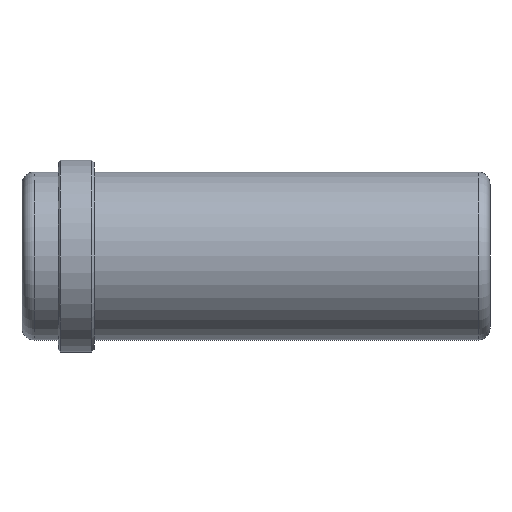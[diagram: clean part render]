
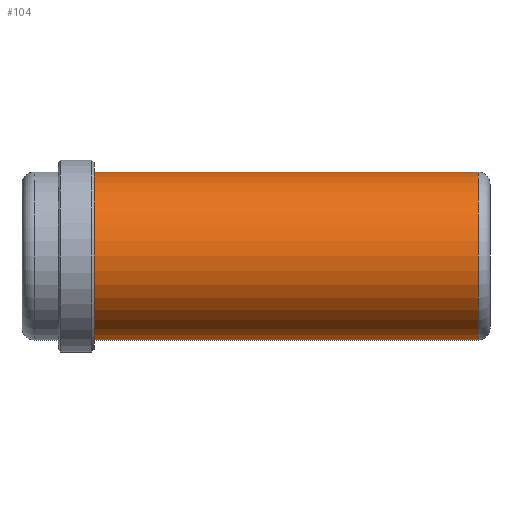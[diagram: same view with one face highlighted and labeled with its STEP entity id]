
A CAD part, front view. The second image highlights one B-rep face of the part: STEP entity #104.
In plain terms, the highlighted cylindrical face has radius 7 mm (diameter 14 mm), a partial arc.
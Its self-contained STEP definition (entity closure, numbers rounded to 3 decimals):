
#36 = EDGE_CURVE ( 'NONE', #86, #209, #507, .T. ) ;
#43 = VERTEX_POINT ( 'NONE', #310 ) ;
#86 = VERTEX_POINT ( 'NONE', #141 ) ;
#104 = ADVANCED_FACE ( 'NONE', ( #444 ), #430, .T. ) ;
#121 = EDGE_LOOP ( 'NONE', ( #576, #254, #553, #208 ) ) ;
#122 = DIRECTION ( 'NONE',  ( -1., 0., 0. ) ) ;
#126 = CARTESIAN_POINT ( 'NONE',  ( 6., 0., 0. ) ) ;
#128 = DIRECTION ( 'NONE',  ( -1., 0., 0. ) ) ;
#141 = CARTESIAN_POINT ( 'NONE',  ( 38., 0., 7. ) ) ;
#158 = CARTESIAN_POINT ( 'NONE',  ( 0., 0., 7. ) ) ;
#166 = CARTESIAN_POINT ( 'NONE',  ( 0., 0., -7. ) ) ;
#171 = DIRECTION ( 'NONE',  ( 0., 0., 1. ) ) ;
#185 = CARTESIAN_POINT ( 'NONE',  ( 6., 0., 7. ) ) ;
#208 = ORIENTED_EDGE ( 'NONE', *, *, #523, .F. ) ;
#209 = VERTEX_POINT ( 'NONE', #185 ) ;
#254 = ORIENTED_EDGE ( 'NONE', *, *, #578, .T. ) ;
#304 = DIRECTION ( 'NONE',  ( 0., 0., 1. ) ) ;
#310 = CARTESIAN_POINT ( 'NONE',  ( 38., 0., -7. ) ) ;
#316 = CARTESIAN_POINT ( 'NONE',  ( 0., 0., 0. ) ) ;
#324 = VERTEX_POINT ( 'NONE', #429 ) ;
#390 = AXIS2_PLACEMENT_3D ( 'NONE', #126, #457, #171 ) ;
#396 = DIRECTION ( 'NONE',  ( -1., 0., 0. ) ) ;
#406 = CIRCLE ( 'NONE', #390, 7. ) ;
#408 = CARTESIAN_POINT ( 'NONE',  ( 38., 0., 0. ) ) ;
#412 = AXIS2_PLACEMENT_3D ( 'NONE', #316, #448, #304 ) ;
#429 = CARTESIAN_POINT ( 'NONE',  ( 6., 0., -7. ) ) ;
#430 = CYLINDRICAL_SURFACE ( 'NONE', #412, 7. ) ;
#444 = FACE_OUTER_BOUND ( 'NONE', #121, .T. ) ;
#448 = DIRECTION ( 'NONE',  ( -1., 0., 0. ) ) ;
#457 = DIRECTION ( 'NONE',  ( -1., 0., 0. ) ) ;
#461 = DIRECTION ( 'NONE',  ( 0., 0., 1. ) ) ;
#476 = VECTOR ( 'NONE', #396, 1000. ) ;
#499 = EDGE_CURVE ( 'NONE', #43, #324, #555, .T. ) ;
#507 = LINE ( 'NONE', #158, #476 ) ;
#514 = AXIS2_PLACEMENT_3D ( 'NONE', #408, #128, #461 ) ;
#523 = EDGE_CURVE ( 'NONE', #324, #209, #406, .T. ) ;
#533 = CIRCLE ( 'NONE', #514, 7. ) ;
#542 = VECTOR ( 'NONE', #122, 1000. ) ;
#553 = ORIENTED_EDGE ( 'NONE', *, *, #36, .T. ) ;
#555 = LINE ( 'NONE', #166, #542 ) ;
#576 = ORIENTED_EDGE ( 'NONE', *, *, #499, .F. ) ;
#578 = EDGE_CURVE ( 'NONE', #43, #86, #533, .T. ) ;
